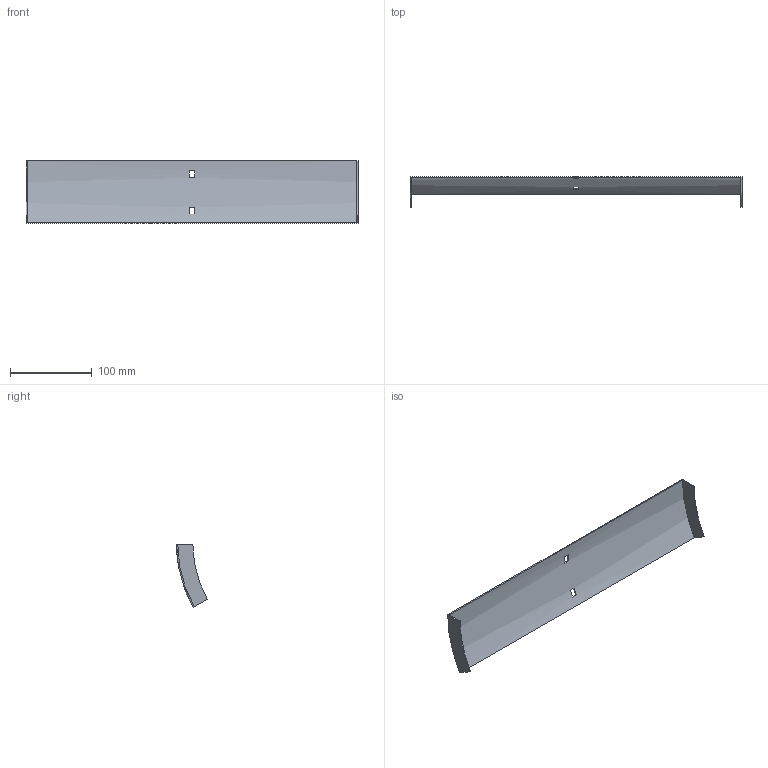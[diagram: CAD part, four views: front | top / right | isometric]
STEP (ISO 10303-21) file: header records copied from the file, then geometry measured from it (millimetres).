
FILE_DESCRIPTION (( 'STEP AP214' ), '1' );
FILE_NAME ('35N1B400.step', '2025-02-21T09:12:05', ( '' ), ( '' ), 'SwSTEP 2.0', 'SolidWorks 2023', '' );
FILE_SCHEMA (( 'AUTOMOTIVE_DESIGN' ));
Length unit declared in the file: millimetre
Products named in the file (1): 35N1B400
Bounding box: 407 x 37.89 x 76.75 mm (x, y, z)
Volume: 52799.3 mm3; surface area: 72035.6 mm2
Topology: 1 solids, 1 shells, 18 faces, 48 edges, 32 vertices
Faces by surface type: plane 14, cylinder 4
Entity records: 599 total; most frequent: DIRECTION 102, CARTESIAN_POINT 99, ORIENTED_EDGE 96, EDGE_CURVE 48, AXIS2_PLACEMENT_3D 35, VECTOR 32, LINE 32, VERTEX_POINT 32
